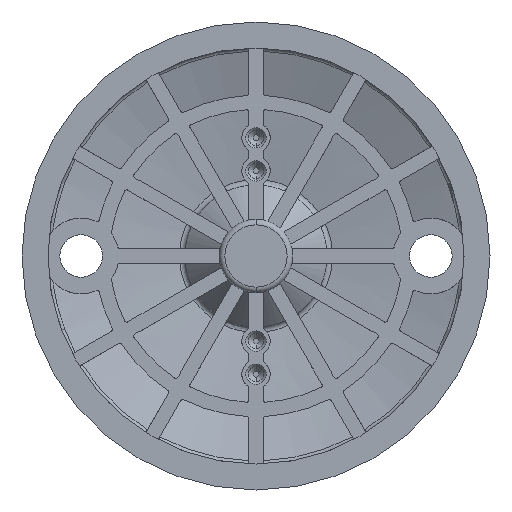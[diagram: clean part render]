
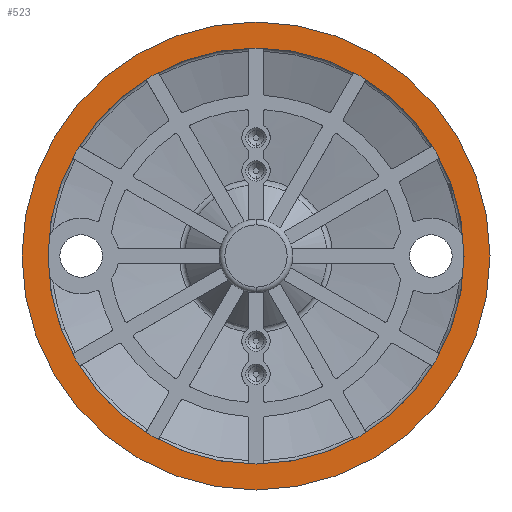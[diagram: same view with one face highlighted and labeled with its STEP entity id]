
A CAD part, front view. The second image highlights one B-rep face of the part: STEP entity #523.
In plain terms, the highlighted planar face has unit normal (0, -1, 0).
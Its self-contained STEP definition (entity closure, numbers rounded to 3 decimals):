
#523=ADVANCED_FACE('NONE',(#1272,#1273),#1274,.T.);
#1272=FACE_OUTER_BOUND('',#2252,.T.);
#1273=FACE_BOUND('',#2253,.T.);
#1274=PLANE('',#2254);
#2252=EDGE_LOOP('',(#3763,#3764));
#2253=EDGE_LOOP('',(#3765,#3766));
#2254=AXIS2_PLACEMENT_3D('',#3767,#3768,#3769);
#3763=ORIENTED_EDGE('',*,*,#6435,.F.);
#3764=ORIENTED_EDGE('',*,*,#6269,.F.);
#3765=ORIENTED_EDGE('',*,*,#6437,.T.);
#3766=ORIENTED_EDGE('',*,*,#6239,.T.);
#3767=CARTESIAN_POINT('',(-44.0,0.,0.0));
#3768=DIRECTION('',(0.0,-1.0,0.0));
#3769=DIRECTION('',(0.0,0.0,-1.0));
#6239=EDGE_CURVE('NONE',#7622,#7623,#7624,.T.);
#6269=EDGE_CURVE('NONE',#7679,#7681,#7682,.T.);
#6435=EDGE_CURVE('NONE',#7681,#7679,#7934,.T.);
#6437=EDGE_CURVE('NONE',#7623,#7622,#7936,.T.);
#7622=VERTEX_POINT('NONE',#9712);
#7623=VERTEX_POINT('NONE',#9713);
#7624=CIRCLE('',#9714,44.0);
#7679=VERTEX_POINT('NONE',#9782);
#7681=VERTEX_POINT('NONE',#9785);
#7682=CIRCLE('',#9786,49.5);
#7934=CIRCLE('',#10509,49.5);
#7936=CIRCLE('',#10511,44.0);
#9712=CARTESIAN_POINT('',(0.,0.,-44.0));
#9713=CARTESIAN_POINT('',(0.0,0.,44.0));
#9714=AXIS2_PLACEMENT_3D('',#12822,#12823,#12824);
#9782=CARTESIAN_POINT('',(0.,0.0,49.5));
#9785=CARTESIAN_POINT('',(0.0,0.0,-49.5));
#9786=AXIS2_PLACEMENT_3D('',#12881,#12882,#12883);
#10509=AXIS2_PLACEMENT_3D('',#13042,#13043,#13044);
#10511=AXIS2_PLACEMENT_3D('',#13045,#13046,#13047);
#12822=CARTESIAN_POINT('',(0.0,0.,0.0));
#12823=DIRECTION('',(-0.0,1.0,0.0));
#12824=DIRECTION('',(0.0,0.0,1.0));
#12881=CARTESIAN_POINT('',(0.0,0.0,0.0));
#12882=DIRECTION('',(-0.0,1.0,0.0));
#12883=DIRECTION('',(0.0,0.0,1.0));
#13042=CARTESIAN_POINT('',(0.0,0.0,0.0));
#13043=DIRECTION('',(-0.0,1.0,0.0));
#13044=DIRECTION('',(0.0,0.0,1.0));
#13045=CARTESIAN_POINT('',(0.0,0.,0.0));
#13046=DIRECTION('',(-0.0,1.0,0.0));
#13047=DIRECTION('',(0.0,0.0,1.0));
